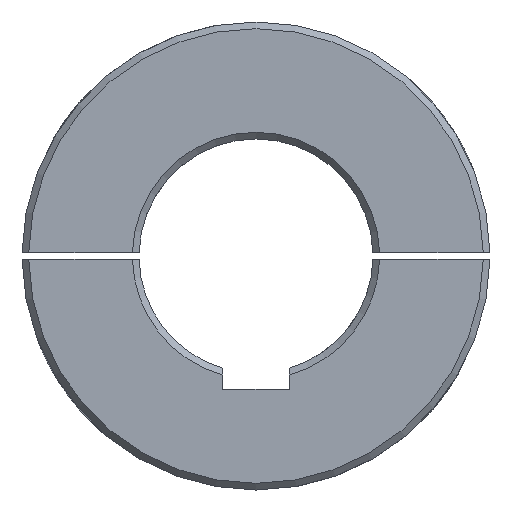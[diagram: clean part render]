
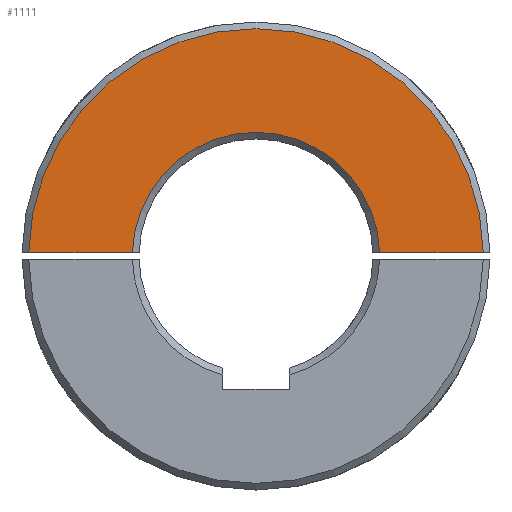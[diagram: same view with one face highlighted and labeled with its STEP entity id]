
A CAD part, front view. The second image highlights one B-rep face of the part: STEP entity #1111.
In plain terms, the highlighted planar face has unit normal (0, -1, 0).
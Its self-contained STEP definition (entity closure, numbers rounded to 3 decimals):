
#106 = DIRECTION ( 'NONE',  ( 0., 0., 1. ) ) ;
#145 = VERTEX_POINT ( 'NONE', #1772 ) ;
#236 = VERTEX_POINT ( 'NONE', #1550 ) ;
#457 = CIRCLE ( 'NONE', #1252, 68. ) ;
#507 = EDGE_CURVE ( 'NONE', #145, #828, #4214, .T. ) ;
#641 = EDGE_CURVE ( 'NONE', #236, #828, #3825, .T. ) ;
#690 = ORIENTED_EDGE ( 'NONE', *, *, #906, .F. ) ;
#828 = VERTEX_POINT ( 'NONE', #4181 ) ;
#906 = EDGE_CURVE ( 'NONE', #145, #935, #1356, .T. ) ;
#935 = VERTEX_POINT ( 'NONE', #3045 ) ;
#944 = AXIS2_PLACEMENT_3D ( 'NONE', #1758, #1047, #1414 ) ;
#1047 = DIRECTION ( 'NONE',  ( 0., 1., 0. ) ) ;
#1101 = DIRECTION ( 'NONE',  ( 0., 1., 0. ) ) ;
#1111 = ADVANCED_FACE ( 'NONE', ( #3221 ), #3832, .F. ) ;
#1252 = AXIS2_PLACEMENT_3D ( 'NONE', #3009, #4394, #1277 ) ;
#1277 = DIRECTION ( 'NONE',  ( 0., 0., 1. ) ) ;
#1356 = LINE ( 'NONE', #1660, #1707 ) ;
#1414 = DIRECTION ( 'NONE',  ( 0., 0., 1. ) ) ;
#1550 = CARTESIAN_POINT ( 'NONE',  ( 67.993, 0., 1. ) ) ;
#1582 = ORIENTED_EDGE ( 'NONE', *, *, #641, .F. ) ;
#1614 = EDGE_CURVE ( 'NONE', #236, #935, #457, .T. ) ;
#1660 = CARTESIAN_POINT ( 'NONE',  ( 75., 0., 1. ) ) ;
#1707 = VECTOR ( 'NONE', #3746, 1000. ) ;
#1758 = CARTESIAN_POINT ( 'NONE',  ( 0., 0., 0. ) ) ;
#1772 = CARTESIAN_POINT ( 'NONE',  ( -36.986, 0., 1. ) ) ;
#2111 = CARTESIAN_POINT ( 'NONE',  ( 0., 0., 0. ) ) ;
#2398 = EDGE_LOOP ( 'NONE', ( #2951, #690, #2416, #1582 ) ) ;
#2416 = ORIENTED_EDGE ( 'NONE', *, *, #507, .T. ) ;
#2624 = VECTOR ( 'NONE', #3440, 1000. ) ;
#2951 = ORIENTED_EDGE ( 'NONE', *, *, #1614, .T. ) ;
#3009 = CARTESIAN_POINT ( 'NONE',  ( 0., 0., 0. ) ) ;
#3018 = AXIS2_PLACEMENT_3D ( 'NONE', #2111, #1101, #106 ) ;
#3045 = CARTESIAN_POINT ( 'NONE',  ( -67.993, 0., 1. ) ) ;
#3221 = FACE_OUTER_BOUND ( 'NONE', #2398, .T. ) ;
#3440 = DIRECTION ( 'NONE',  ( -1., 0., 0. ) ) ;
#3746 = DIRECTION ( 'NONE',  ( -1., 0., 0. ) ) ;
#3782 = CARTESIAN_POINT ( 'NONE',  ( 75., 0., 1. ) ) ;
#3825 = LINE ( 'NONE', #3782, #2624 ) ;
#3832 = PLANE ( 'NONE',  #3018 ) ;
#4181 = CARTESIAN_POINT ( 'NONE',  ( 36.986, 0., 1. ) ) ;
#4214 = CIRCLE ( 'NONE', #944, 37. ) ;
#4394 = DIRECTION ( 'NONE',  ( 0., -1., 0. ) ) ;
